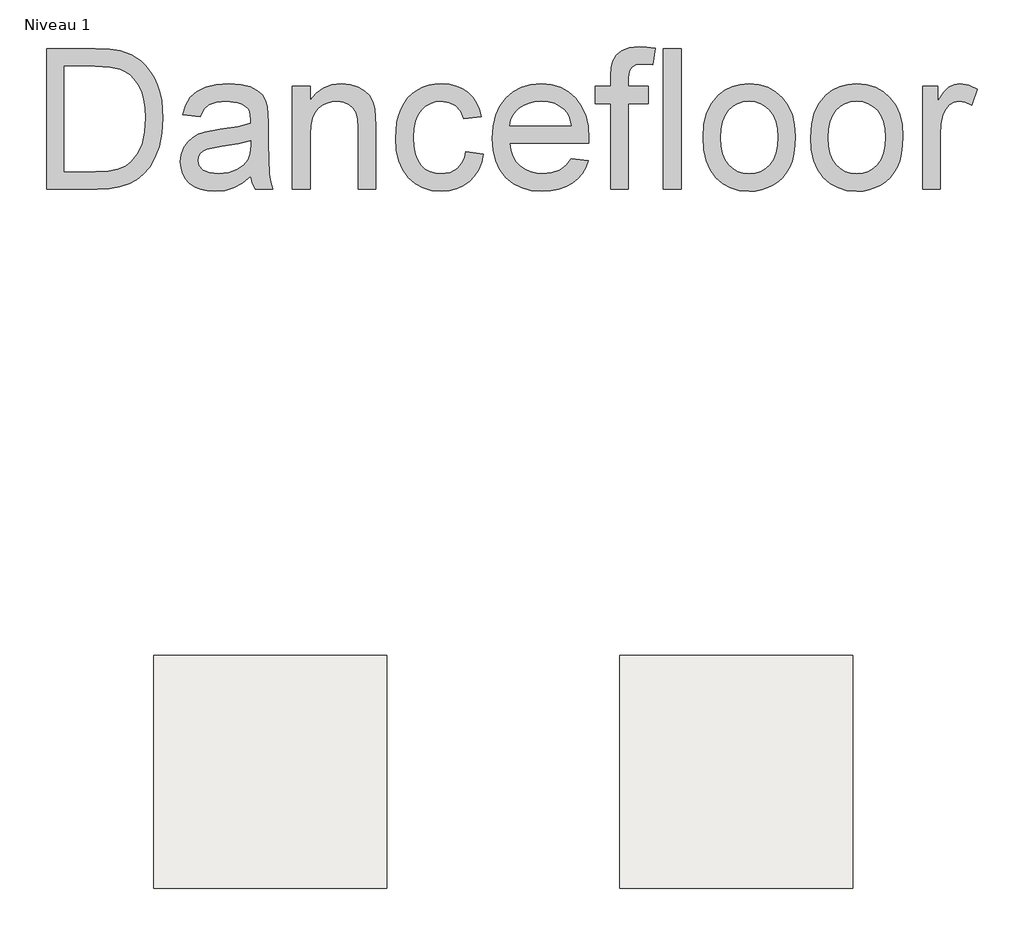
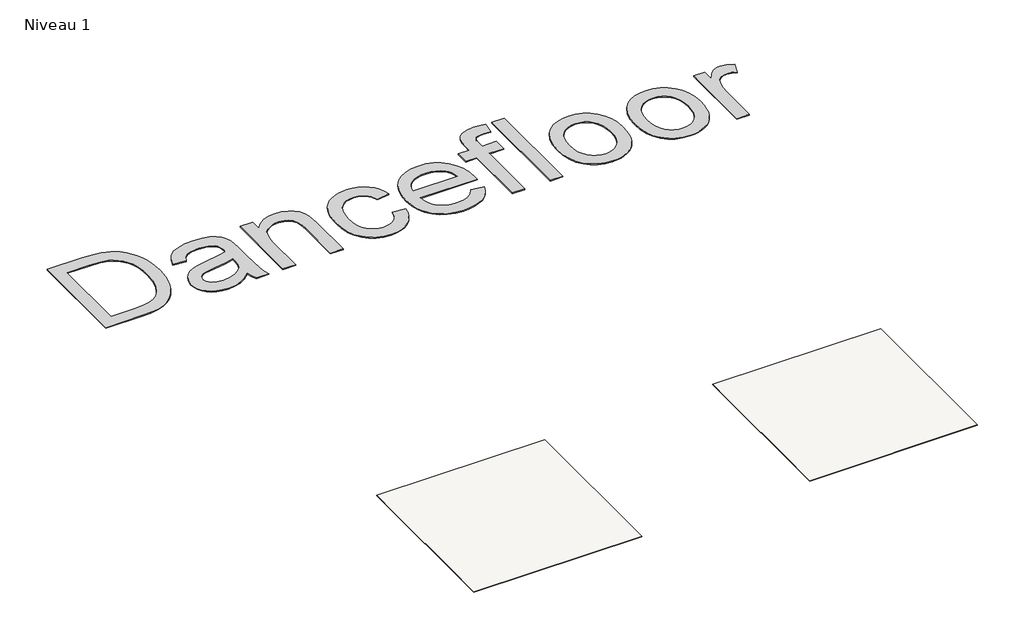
# One storey, incomplete: 2 coverings, 1 proxy.
"""IFC4 building model written with IfcOpenShell, lengths in millimetres."""

from ifc_helpers import new_model, si_unit, frame, origin, origin_with_axes, place, context, project, spatial, polyline, outline, extrude, element, save

model = new_model("IFC4")

# Units and contexts
model_context = context("Model", 3, world=origin())
ifc_project = project(units=[si_unit("LENGTHUNIT", "METRE", prefix="MILLI")], contexts=[model_context])

# Site, building, storey
site = spatial("IfcSite", under=ifc_project)
building = spatial("IfcBuilding", under=site)
storey = spatial("IfcBuildingStorey", under=building, Name="Niveau 1", Elevation=0.0)

# Proxy
placement = place(None, origin())
element("IfcBuildingElementProxy", 1, Name="600mm Arial", ObjectType="600mm Arial", at=placement, inside=storey, context=model_context, shape_type="SweptSolid", body=[
    extrude(outline(polyline([(-7657.3944143, 4020.5816168), (-7657.3944143, 4623.3194777), (-7449.4675106, 4623.3194777), (-7387.3322417, 4621.148974), (-7341.8988153, 4614.6374627), (-7293.8534267, 4597.8988319), (-7253.3128308, 4571.5216928), (-7230.9731967, 4549.9638079), (-7211.6318008, 4525.6100198), (-7195.2886431, 4498.4603286), (-7181.9437237, 4468.5147342), (-7171.5786485, 4436.0491481), (-7164.1750234, 4401.3394818), (-7158.2521233, 4325.1879088), (-7162.262037, 4260.49586), (-7174.2917782, 4203.5661212), (-7192.6123016, 4155.0976684), (-7215.4945617, 4115.7894772), (-7241.8349126, 4084.7586309), (-7270.5297082, 4061.1222127), (-7303.4735409, 4043.5926356), (-7342.5610028, 4030.8823127), (-7387.8656705, 4023.1567908), (-7439.4611204, 4020.5816168), (-7657.3944143, 4020.5816168)]), holes=[polyline([(-7582.0521817, 4095.9238495), (-7448.7317467, 4095.9238495), (-7393.5862356, 4098.6461762), (-7351.7580527, 4106.8131565), (-7320.1937775, 4119.9465437), (-7295.8399895, 4137.5680913), (-7269.6651855, 4170.1808302), (-7250.0018929, 4212.3952891), (-7237.6962401, 4264.3954091), (-7233.5943559, 4326.3651312), (-7235.6039113, 4370.1063005), (-7241.6325775, 4408.4763926), (-7251.6803545, 4441.4754075), (-7265.7472422, 4469.1033454), (-7282.6928067, 4491.9856055), (-7301.3766135, 4510.7475872), (-7321.7986627, 4525.3892906), (-7343.9589544, 4535.9107157), (-7387.2954535, 4544.9606128), (-7450.7918858, 4547.9772451), (-7582.0521817, 4547.9772451), (-7582.0521817, 4095.9238495)])]), origin_with_axes(), (0.0, 0.0, 1.0), 5.0),
    extrude(outline(polyline([(-6781.5409602, 4077.0882913), (-6817.5382134, 4046.2229919), (-6854.6023244, 4026.0262704), (-6893.5794218, 4014.8794459), (-6935.3156342, 4011.1638378), (-6968.8618736, 4013.3987209), (-6998.2786377, 4020.1033702), (-7023.5659263, 4031.2777859), (-7044.7237395, 4046.9219677), (-7061.4301807, 4066.0426344), (-7073.3633529, 4087.6465046), (-7080.5232562, 4111.7335782), (-7082.9098906, 4138.3038553), (-7079.3046471, 4169.5370367), (-7068.4889164, 4197.9007385), (-7051.805468, 4222.1809502), (-7030.5970709, 4241.1636611), (-7005.6730658, 4255.511059), (-6977.8427928, 4265.8853312), (-6912.6541033, 4277.2160967), (-6835.6196135, 4289.1354733), (-6781.9824186, 4303.1149891), (-6781.5409602, 4319.8904081), (-6786.7280963, 4353.5148225), (-6793.2120165, 4365.967628), (-6802.2895047, 4375.5141658), (-6817.9796718, 4385.0423095), (-6837.0911415, 4391.8481264), (-6885.5779884, 4397.2927799), (-6930.4595918, 4393.6691422), (-6961.8031378, 4382.7982293), (-6983.1770818, 4362.6934783), (-6998.149879, 4331.3683264), (-7073.4921116, 4340.7861054), (-7060.4139066, 4381.9888889), (-7040.8977668, 4414.3625045), (-7013.1226762, 4439.1209628), (-6975.2676189, 4457.4782743), (-6928.9696698, 4468.845828), (-6875.8659038, 4472.6350125), (-6824.9326415, 4469.2872864), (-6784.5575926, 4459.2441079), (-6754.1153575, 4444.142552), (-6732.9805368, 4425.6196935), (-6718.9642328, 4402.7190393), (-6709.8775475, 4374.4840962), (-6706.1987276, 4308.5596427), (-6706.1987276, 4214.8233103), (-6702.3727548, 4083.9308964), (-6696.7073721, 4051.5756749), (-6687.3631694, 4020.5816168), (-6762.705402, 4020.5816168), (-6774.7719315, 4046.7748149), (-6781.5409602, 4077.0882913)]), holes=[polyline([(-6781.5409602, 4227.7727565), (-6832.1615227, 4215.2279805), (-6903.0891714, 4204.6697672), (-6967.909979, 4192.456085), (-6984.7773684, 4184.1051637), (-6997.2669622, 4172.5904572), (-7004.9924841, 4158.7948824), (-7007.567658, 4143.601356), (-7001.9574576, 4121.1973425), (-6985.1268563, 4102.840031), (-6957.4437362, 4090.5895605), (-6919.2759792, 4086.5060704), (-6878.8089597, 4091.0126248), (-6843.0508298, 4104.5322881), (-6814.0617286, 4124.4530982), (-6793.9017952, 4148.1630928), (-6784.9622628, 4172.5904572), (-6781.9824186, 4206.4356008), (-6781.5409602, 4227.7727565)])]), origin_with_axes(), (0.0, 0.0, 1.0), 5.0),
    extrude(outline(polyline([(-6602.6031577, 4020.5816168), (-6602.6031577, 4463.2172334), (-6527.2609251, 4463.2172334), (-6527.2609251, 4401.4130582), (-6501.0861212, 4432.5726632), (-6469.6506047, 4454.8295239), (-6432.9543757, 4468.1836404), (-6390.9974341, 4472.6350125), (-6353.8597467, 4469.0481631), (-6319.8490563, 4458.2876147), (-6291.4853544, 4441.6961367), (-6271.2886329, 4420.6164984), (-6257.5850286, 4395.103882), (-6248.7006784, 4365.2134699), (-6244.7275528, 4292.3728349), (-6244.7275528, 4020.5816168), (-6320.0697854, 4020.5816168), (-6320.0697854, 4282.2192918), (-6322.2402892, 4321.1779951), (-6328.7518005, 4348.8795093), (-6340.7631477, 4368.726743), (-6359.4331589, 4384.1226045), (-6383.3638827, 4394.000236), (-6411.1573675, 4397.2927799), (-6434.035029, 4395.4441729), (-6455.2848128, 4389.8983518), (-6474.9067187, 4380.6553167), (-6492.9007468, 4367.7150675), (-6507.9333248, 4349.6060763), (-6518.6708805, 4324.8568151), (-6525.113414, 4293.4672838), (-6527.2609251, 4255.4374826), (-6527.2609251, 4020.5816168), (-6602.6031577, 4020.5816168)])), origin_with_axes(), (0.0, 0.0, 1.0), 5.0),
    extrude(outline(polyline([(-5858.5986107, 4180.6838611), (-5783.2563781, 4171.2660821), (-5791.4509495, 4135.7148858), (-5804.26244, 4104.2563766), (-5821.6908495, 4076.8905547), (-5843.7361781, 4053.61742), (-5869.4695237, 4035.0439778), (-5897.9619842, 4021.7772333), (-5929.2135597, 4013.8171867), (-5963.2242501, 4011.1638378), (-6005.4800958, 4014.8656503), (-6043.3673428, 4025.9710881), (-6076.8859911, 4044.480151), (-6106.0360407, 4070.392839), (-6129.6310721, 4103.2217085), (-6146.484666, 4142.4793159), (-6156.5968224, 4188.1656612), (-6159.9675411, 4240.2807444), (-6154.2101879, 4307.327238), (-6147.0134964, 4337.4981601), (-6136.9381282, 4365.4341991), (-6123.9151056, 4390.574335), (-6107.8754506, 4412.3575476), (-6088.8191633, 4430.783837), (-6066.7462436, 4445.8532033), (-6042.6545714, 4457.5702448), (-6017.5420267, 4465.9395602), (-5991.4086095, 4470.9611494), (-5964.2543197, 4472.6350125), (-5930.8276419, 4470.33575), (-5900.5923404, 4463.4379626), (-5873.5484153, 4451.9416503), (-5849.6958664, 4435.846813), (-5829.4393641, 4415.5213328), (-5813.1835784, 4391.3330916), (-5800.9285094, 4363.2820894), (-5792.6741572, 4331.3683264), (-5868.0163898, 4321.9505473), (-5881.6832059, 4354.8208036), (-5902.9651793, 4378.3836454), (-5930.6850877, 4392.5654963), (-5963.6657085, 4397.2927799), (-5989.2656969, 4394.9659263), (-6012.3548906, 4387.9853654), (-6032.9332897, 4376.3510973), (-6051.0008942, 4360.063122), (-6065.7115755, 4338.7443604), (-6076.2192049, 4312.0177334), (-6082.5237826, 4279.8832411), (-6084.6253085, 4242.3408835), (-6082.5697679, 4204.2329074), (-6076.4031459, 4171.7259346), (-6066.1254427, 4144.8199651), (-6051.7366582, 4123.5149991), (-6034.0277386, 4107.3235928), (-6013.7896304, 4095.7583026), (-5991.0223334, 4088.8191284), (-5965.7258477, 4086.5060704), (-5926.7119621, 4092.2818177), (-5909.8399741, 4099.5015019), (-5894.7246226, 4109.6090597), (-5881.788972, 4122.7148558), (-5871.4560864, 4138.9292547), (-5863.725966, 4158.2522565), (-5858.5986107, 4180.6838611)])), origin_with_axes(), (0.0, 0.0, 1.0), 5.0),
    extrude(outline(polyline([(-5407.4281318, 4152.4305239), (-5333.5574272, 4143.0127448), (-5344.8835941, 4113.4258354), (-5360.1736895, 4087.352199), (-5379.4277135, 4064.7918356), (-5402.6456659, 4045.7447453), (-5429.5884235, 4030.6155983), (-5460.016863, 4019.8090647), (-5493.9309845, 4013.3251445), (-5531.3307878, 4011.1638378), (-5578.0793923, 4014.8932415), (-5619.7328312, 4026.0814527), (-5656.2911045, 4044.7284713), (-5687.7542121, 4070.8342974), (-5713.0552964, 4103.672364), (-5731.1274994, 4142.5161041), (-5741.9708212, 4187.3655179), (-5745.5852618, 4238.2206052), (-5741.934033, 4290.8001393), (-5730.9803466, 4337.1440737), (-5712.7242026, 4377.2524082), (-5687.1656009, 4411.1251429), (-5655.7852668, 4438.0357109), (-5620.063925, 4457.2575451), (-5580.0015758, 4468.7906457), (-5535.5982189, 4472.6350125), (-5492.6250034, 4468.7998427), (-5453.7628691, 4457.2943333), (-5419.0118161, 4438.1184843), (-5388.3718445, 4411.2722957), (-5363.3604673, 4377.4731374), (-5345.4951979, 4337.4383793), (-5334.7760363, 4291.1680213), (-5331.2029824, 4238.6620636), (-5331.6444408, 4218.3549774), (-5670.2430292, 4218.3549774), (-5665.879029, 4188.2898214), (-5657.2016124, 4161.9586676), (-5644.2107795, 4139.361516), (-5626.9065301, 4120.4983667), (-5606.2453576, 4105.6267371), (-5583.183755, 4095.0041445), (-5557.7217224, 4088.6305889), (-5529.8592598, 4086.5060704), (-5489.7601223, 4090.4424077), (-5455.9885552, 4102.2514198), (-5428.5445583, 4122.6688705), (-5407.4281318, 4152.4305239)]), holes=[polyline([(-5670.2430292, 4293.6972101), (-5406.545215, 4293.6972101), (-5416.7355463, 4333.5020419), (-5425.5003348, 4349.1554208), (-5436.7115386, 4361.9761084), (-5457.2577481, 4377.4271522), (-5480.6366489, 4388.463612), (-5506.848241, 4395.0854879), (-5535.8925245, 4397.2927799), (-5562.3846267, 4395.5315449), (-5586.678634, 4390.2478397), (-5608.7745463, 4381.4416644), (-5628.6723637, 4369.1130191), (-5645.3696078, 4353.8321207), (-5657.8638, 4336.1691864), (-5666.1549405, 4316.1242162), (-5670.2430292, 4293.6972101)])]), origin_with_axes(), (0.0, 0.0, 1.0), 5.0),
    extrude(outline(polyline([(-5237.0251916, 4020.5816168), (-5237.0251916, 4387.8750008), (-5302.9496452, 4387.8750008), (-5302.9496452, 4463.2172334), (-5237.0251916, 4463.2172334), (-5237.0251916, 4507.8045313), (-5235.0386289, 4544.7030954), (-5229.0789406, 4570.638776), (-5213.9222024, 4595.6915399), (-5190.5249075, 4615.5203794), (-5157.7834099, 4628.4330375), (-5114.5940637, 4632.7372568), (-5081.8893543, 4630.6771176), (-5045.873707, 4624.4967001), (-5056.9101668, 4553.863357), (-5100.3202422, 4557.3950242), (-5128.9598556, 4554.2680272), (-5147.7770196, 4544.8870364), (-5158.2064742, 4526.9711832), (-5161.682959, 4498.2395994), (-5161.682959, 4463.2172334), (-5076.9229473, 4463.2172334), (-5076.9229473, 4387.8750008), (-5161.682959, 4387.8750008), (-5161.682959, 4020.5816168), (-5237.0251916, 4020.5816168)])), origin_with_axes(), (0.0, 0.0, 1.0), 5.0),
    extrude(outline(polyline([(-5010.9984938, 4020.5816168), (-5010.9984938, 4623.3194777), (-4935.6562612, 4623.3194777), (-4935.6562612, 4020.5816168), (-5010.9984938, 4020.5816168)])), origin_with_axes(), (0.0, 0.0, 1.0), 5.0),
    extrude(outline(polyline([(-4841.4784704, 4241.8994251), (-4837.4041773, 4299.224637), (-4825.181298, 4348.6219919), (-4804.8098326, 4390.0914898), (-4776.2897809, 4423.6331308), (-4747.5765912, 4445.071454), (-4715.8835573, 4460.3845421), (-4681.2106792, 4469.5723949), (-4643.557957, 4472.6350125), (-4601.9918901, 4468.9056088), (-4564.4081458, 4457.7173976), (-4530.806724, 4439.070379), (-4501.1876249, 4412.9645529), (-4477.0131793, 4380.2828362), (-4459.7457181, 4341.9081455), (-4449.3852414, 4297.840481), (-4445.9317492, 4248.0798427), (-4447.4584595, 4207.7507789), (-4452.0385903, 4171.9650579), (-4459.6721417, 4140.7226794), (-4470.3591137, 4114.0236436), (-4483.966149, 4090.962041), (-4500.3598904, 4070.6319623), (-4519.5403379, 4053.0334073), (-4541.5074916, 4038.1663762), (-4565.4060257, 4026.3527656), (-4590.3806146, 4017.9144724), (-4616.4312584, 4012.8514964), (-4643.557957, 4011.1638378), (-4685.7310293, 4014.8794459), (-4723.6642615, 4026.0262704), (-4757.3576537, 4044.6043111), (-4786.811206, 4070.6135682), (-4810.7281342, 4103.6125832), (-4827.8116543, 4143.1598976), (-4838.0617664, 4189.2555116), (-4841.4784704, 4241.8994251)]), holes=[polyline([(-4766.1362378, 4242.0465779), (-4763.956537, 4205.5021002), (-4757.4174345, 4173.8596501), (-4746.5189304, 4147.1192276), (-4731.2610247, 4125.2808327), (-4712.701378, 4108.3168742), (-4691.8976512, 4096.199761), (-4668.8498442, 4088.929493), (-4643.557957, 4086.5060704), (-4618.3948286, 4088.9432886), (-4595.4389921, 4096.2549432), (-4574.6904475, 4108.4410343), (-4556.149195, 4125.5015619), (-4540.8912892, 4147.5560875), (-4529.9927851, 4174.7241728), (-4523.4536827, 4207.0058179), (-4521.2739818, 4244.4010227), (-4523.4674782, 4279.7866721), (-4530.0479674, 4310.6013877), (-4541.0154494, 4336.8451696), (-4556.3699242, 4358.5180176), (-4574.9801546, 4375.4819761), (-4595.7149036, 4387.5990893), (-4618.574171, 4394.8693573), (-4643.557957, 4397.2927799), (-4668.8498442, 4394.8785543), (-4691.8976512, 4387.6358775), (-4712.701378, 4375.5647496), (-4731.2610247, 4358.6651704), (-4746.5189304, 4336.8911548), (-4757.4174345, 4310.1967175), (-4763.956537, 4278.5818586), (-4766.1362378, 4242.0465779)])]), origin_with_axes(), (0.0, 0.0, 1.0), 5.0),
    extrude(outline(polyline([(-4380.0072957, 4241.8994251), (-4375.9330026, 4299.224637), (-4363.7101233, 4348.6219919), (-4343.3386578, 4390.0914898), (-4314.8186061, 4423.6331308), (-4286.1054164, 4445.071454), (-4254.4123825, 4460.3845421), (-4219.7395045, 4469.5723949), (-4182.0867823, 4472.6350125), (-4140.5207153, 4468.9056088), (-4102.936971, 4457.7173976), (-4069.3355493, 4439.070379), (-4039.7164501, 4412.9645529), (-4015.5420045, 4380.2828362), (-3998.2745434, 4341.9081455), (-3987.9140667, 4297.840481), (-3984.4605745, 4248.0798427), (-3985.9872848, 4207.7507789), (-3990.5674156, 4171.9650579), (-3998.200967, 4140.7226794), (-4008.8879389, 4114.0236436), (-4022.4949742, 4090.962041), (-4038.8887157, 4070.6319623), (-4058.0691632, 4053.0334073), (-4080.0363168, 4038.1663762), (-4103.9348509, 4026.3527656), (-4128.9094399, 4017.9144724), (-4154.9600837, 4012.8514964), (-4182.0867823, 4011.1638378), (-4224.2598545, 4014.8794459), (-4262.1930867, 4026.0262704), (-4295.886479, 4044.6043111), (-4325.3400312, 4070.6135682), (-4349.2569594, 4103.6125832), (-4366.3404796, 4143.1598976), (-4376.5905917, 4189.2555116), (-4380.0072957, 4241.8994251)]), holes=[polyline([(-4304.6650631, 4242.0465779), (-4302.4853623, 4205.5021002), (-4295.9462598, 4173.8596501), (-4285.0477557, 4147.1192276), (-4269.7898499, 4125.2808327), (-4251.2302033, 4108.3168742), (-4230.4264764, 4096.199761), (-4207.3786694, 4088.929493), (-4182.0867823, 4086.5060704), (-4156.9236538, 4088.9432886), (-4133.9678173, 4096.2549432), (-4113.2192728, 4108.4410343), (-4094.6780202, 4125.5015619), (-4079.4201145, 4147.5560875), (-4068.5216104, 4174.7241728), (-4061.9825079, 4207.0058179), (-4059.8028071, 4244.4010227), (-4061.9963035, 4279.7866721), (-4068.5767927, 4310.6013877), (-4079.5442746, 4336.8451696), (-4094.8987494, 4358.5180176), (-4113.5089799, 4375.4819761), (-4134.2437288, 4387.5990893), (-4157.1029963, 4394.8693573), (-4182.0867823, 4397.2927799), (-4207.3786694, 4394.8785543), (-4230.4264764, 4387.6358775), (-4251.2302033, 4375.5647496), (-4269.7898499, 4358.6651704), (-4285.0477557, 4336.8911548), (-4295.9462598, 4310.1967175), (-4302.4853623, 4278.5818586), (-4304.6650631, 4242.0465779)])]), origin_with_axes(), (0.0, 0.0, 1.0), 5.0),
    extrude(outline(polyline([(-3899.7005628, 4020.5816168), (-3899.7005628, 4463.2172334), (-3833.7761092, 4463.2172334), (-3833.7761092, 4397.7342383), (-3809.4223212, 4435.6996602), (-3786.9815195, 4458.0668855), (-3764.4671414, 4468.9929808), (-3739.8926241, 4472.6350125), (-3702.3686606, 4466.822477), (-3664.2560859, 4449.3848704), (-3689.4192143, 4381.8417361), (-3715.906718, 4393.430019), (-3742.3942216, 4397.2927799), (-3764.8902056, 4393.5771718), (-3784.9949567, 4382.4303473), (-3801.2369468, 4364.6984351), (-3812.1446479, 4341.2275638), (-3821.3049096, 4299.1418636), (-3824.3583302, 4253.2301906), (-3824.3583302, 4020.5816168), (-3899.7005628, 4020.5816168)])), origin_with_axes(), (0.0, 0.0, 1.0), 5.0),
])

# Coverings
element("IfcCovering", 2, ObjectType="TARKETT - Dancefloor - Black", at=placement, inside=storey, context=model_context, shape_type="SweptSolid", body=[
    extrude(outline(polyline([(-6198.4963664, 2020.5816168), (-6198.4963664, 1020.5816168), (-7198.4963664, 1020.5816168), (-7198.4963664, 2020.5816168), (-6198.4963664, 2020.5816168)])), frame((0.0, 0.0, -3.45), z_axis=(0.0, 0.0, 1.0), x_axis=(1.0, 0.0, 0.0)), (0.0, 0.0, 1.0), 3.45),
])
element("IfcCovering", 3, ObjectType="TARKETT - Dancefloor - Medium Grey", at=placement, inside=storey, context=model_context, shape_type="SweptSolid", body=[
    extrude(outline(polyline([(-4198.4963664, 2020.5816168), (-4198.4963664, 1020.5816168), (-5198.4963664, 1020.5816168), (-5198.4963664, 2020.5816168), (-4198.4963664, 2020.5816168)])), frame((0.0, 0.0, -3.45), z_axis=(0.0, 0.0, 1.0), x_axis=(1.0, 0.0, 0.0)), (0.0, 0.0, 1.0), 3.45),
])

save(model, "model.ifc")
